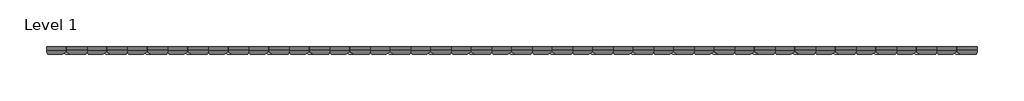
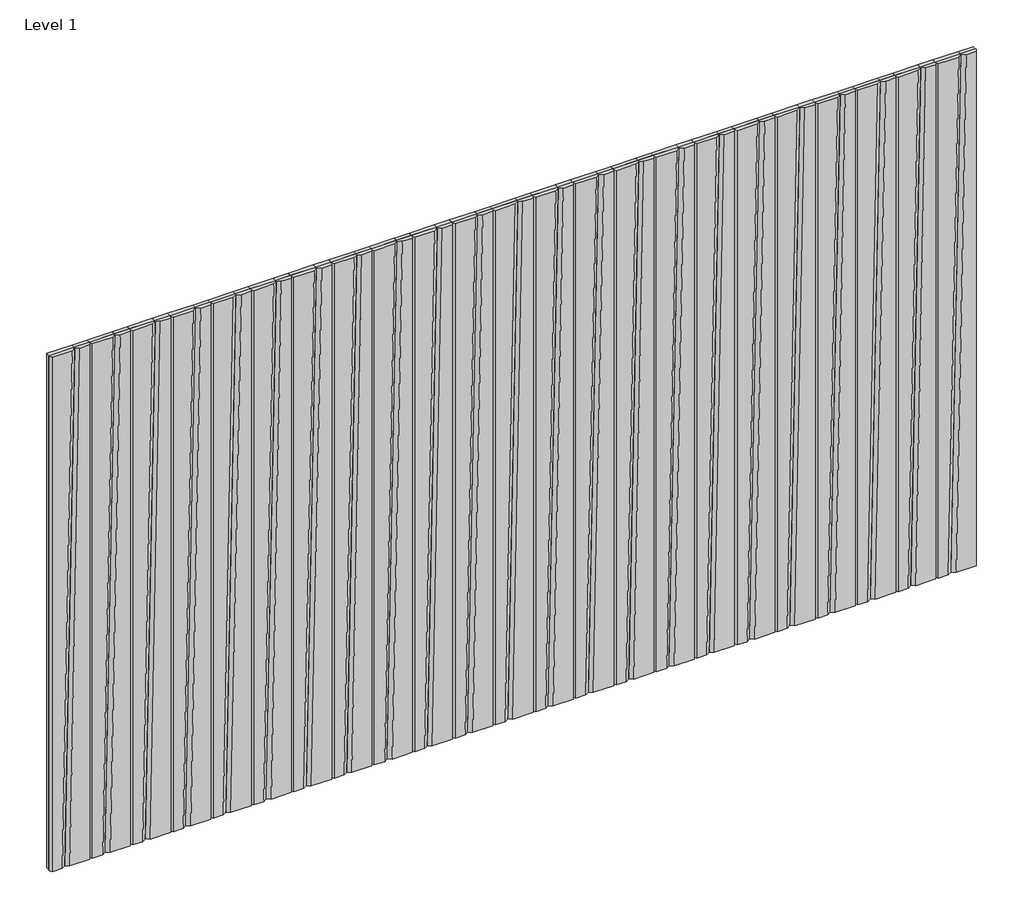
# One storey: 46 proxies.
"""IFC4 building model written with IfcOpenShell, lengths in millimetres."""

from ifc_helpers import new_model, si_unit, origin, place, context, project, spatial, transform, mapped, element, save
from components import specialty_equipment_cf8c985c, specialty_equipment_829ac422

model = new_model("IFC4")

# Units and contexts
model_context = context("Model", 3, world=origin())
ifc_project = project(units=[si_unit("LENGTHUNIT", "METRE", prefix="MILLI")], contexts=[model_context])

# Site, building, storey
site = spatial("IfcSite", under=ifc_project)
building = spatial("IfcBuilding", under=site)
storey = spatial("IfcBuildingStorey", under=building, Name="Level 1", Elevation=0.0)

# Proxies
placement = place(None, origin())
specialty_equipment_shape = specialty_equipment_cf8c985c(model_context)
element("IfcBuildingElementProxy", 1, Name="Spinneybeck_ARO Plank 3 : A - Top 5” x Bottom 3”", ObjectType="Spinneybeck_ARO Plank 3 : A - Top 5” x Bottom 3”", at=placement, inside=storey, context=model_context, shape_type="MappedRepresentation", body=[
    mapped(specialty_equipment_shape, transform((-18891.0631386, 525.5178844, -8.8724664), x_axis=(1.0, 0.0, 0.0), y_axis=(0.0, 0.0, 1.0), z_axis=(0.0, -1.0, 0.0))),
])
element("IfcBuildingElementProxy", 2, Name="Spinneybeck_ARO Plank 3 : A - Top 5” x Bottom 3”", ObjectType="Spinneybeck_ARO Plank 3 : A - Top 5” x Bottom 3”", at=placement, inside=storey, context=model_context, shape_type="MappedRepresentation", body=[
    mapped(specialty_equipment_shape, transform((-18687.8457235, 525.5178844, -8.8724664), x_axis=(1.0, 0.0, 0.0), y_axis=(0.0, 0.0, 1.0), z_axis=(0.0, -1.0, 0.0))),
])
element("IfcBuildingElementProxy", 3, Name="Spinneybeck_ARO Plank 3 : A - Top 5” x Bottom 3”", ObjectType="Spinneybeck_ARO Plank 3 : A - Top 5” x Bottom 3”", at=placement, inside=storey, context=model_context, shape_type="MappedRepresentation", body=[
    mapped(specialty_equipment_shape, transform((-18484.6283083, 525.5178844, -8.8724664), x_axis=(1.0, 0.0, 0.0), y_axis=(0.0, 0.0, 1.0), z_axis=(0.0, -1.0, 0.0))),
])
element("IfcBuildingElementProxy", 4, Name="Spinneybeck_ARO Plank 3 : A - Top 5” x Bottom 3”", ObjectType="Spinneybeck_ARO Plank 3 : A - Top 5” x Bottom 3”", at=placement, inside=storey, context=model_context, shape_type="MappedRepresentation", body=[
    mapped(specialty_equipment_shape, transform((-18281.4108932, 525.5178844, -8.8724664), x_axis=(1.0, 0.0, 0.0), y_axis=(0.0, 0.0, 1.0), z_axis=(0.0, -1.0, 0.0))),
])
element("IfcBuildingElementProxy", 5, Name="Spinneybeck_ARO Plank 3 : A - Top 5” x Bottom 3”", ObjectType="Spinneybeck_ARO Plank 3 : A - Top 5” x Bottom 3”", at=placement, inside=storey, context=model_context, shape_type="MappedRepresentation", body=[
    mapped(specialty_equipment_shape, transform((-18078.193478, 525.5178844, -8.8724664), x_axis=(1.0, 0.0, 0.0), y_axis=(0.0, 0.0, 1.0), z_axis=(0.0, -1.0, 0.0))),
])
element("IfcBuildingElementProxy", 6, Name="Spinneybeck_ARO Plank 3 : A - Top 5” x Bottom 3”", ObjectType="Spinneybeck_ARO Plank 3 : A - Top 5” x Bottom 3”", at=placement, inside=storey, context=model_context, shape_type="MappedRepresentation", body=[
    mapped(specialty_equipment_shape, transform((-17874.9760629, 525.5178844, -8.8724664), x_axis=(1.0, 0.0, 0.0), y_axis=(0.0, 0.0, 1.0), z_axis=(0.0, -1.0, 0.0))),
])
element("IfcBuildingElementProxy", 7, Name="Spinneybeck_ARO Plank 3 : A - Top 5” x Bottom 3”", ObjectType="Spinneybeck_ARO Plank 3 : A - Top 5” x Bottom 3”", at=placement, inside=storey, context=model_context, shape_type="MappedRepresentation", body=[
    mapped(specialty_equipment_shape, transform((-17671.7586477, 525.5178844, -8.8724664), x_axis=(1.0, 0.0, 0.0), y_axis=(0.0, 0.0, 1.0), z_axis=(0.0, -1.0, 0.0))),
])
element("IfcBuildingElementProxy", 8, Name="Spinneybeck_ARO Plank 3 : A - Top 5” x Bottom 3”", ObjectType="Spinneybeck_ARO Plank 3 : A - Top 5” x Bottom 3”", at=placement, inside=storey, context=model_context, shape_type="MappedRepresentation", body=[
    mapped(specialty_equipment_shape, transform((-17468.5412326, 525.5178844, -8.8724664), x_axis=(1.0, 0.0, 0.0), y_axis=(0.0, 0.0, 1.0), z_axis=(0.0, -1.0, 0.0))),
])
element("IfcBuildingElementProxy", 9, Name="Spinneybeck_ARO Plank 3 : A - Top 5” x Bottom 3”", ObjectType="Spinneybeck_ARO Plank 3 : A - Top 5” x Bottom 3”", at=placement, inside=storey, context=model_context, shape_type="MappedRepresentation", body=[
    mapped(specialty_equipment_shape, transform((-17265.3238174, 525.5178844, -8.8724664), x_axis=(1.0, 0.0, 0.0), y_axis=(0.0, 0.0, 1.0), z_axis=(0.0, -1.0, 0.0))),
])
element("IfcBuildingElementProxy", 10, Name="Spinneybeck_ARO Plank 3 : A - Top 5” x Bottom 3”", ObjectType="Spinneybeck_ARO Plank 3 : A - Top 5” x Bottom 3”", at=placement, inside=storey, context=model_context, shape_type="MappedRepresentation", body=[
    mapped(specialty_equipment_shape, transform((-17062.1064023, 525.5178844, -8.8724664), x_axis=(1.0, 0.0, 0.0), y_axis=(0.0, 0.0, 1.0), z_axis=(0.0, -1.0, 0.0))),
])
element("IfcBuildingElementProxy", 11, Name="Spinneybeck_ARO Plank 3 : A - Top 5” x Bottom 3”", ObjectType="Spinneybeck_ARO Plank 3 : A - Top 5” x Bottom 3”", at=placement, inside=storey, context=model_context, shape_type="MappedRepresentation", body=[
    mapped(specialty_equipment_shape, transform((-16858.8889871, 525.5178844, -8.8724664), x_axis=(1.0, 0.0, 0.0), y_axis=(0.0, 0.0, 1.0), z_axis=(0.0, -1.0, 0.0))),
])
element("IfcBuildingElementProxy", 12, Name="Spinneybeck_ARO Plank 3 : A - Top 5” x Bottom 3”", ObjectType="Spinneybeck_ARO Plank 3 : A - Top 5” x Bottom 3”", at=placement, inside=storey, context=model_context, shape_type="MappedRepresentation", body=[
    mapped(specialty_equipment_shape, transform((-16655.671572, 525.5178844, -8.8724664), x_axis=(1.0, 0.0, 0.0), y_axis=(0.0, 0.0, 1.0), z_axis=(0.0, -1.0, 0.0))),
])
element("IfcBuildingElementProxy", 13, Name="Spinneybeck_ARO Plank 3 : A - Top 5” x Bottom 3”", ObjectType="Spinneybeck_ARO Plank 3 : A - Top 5” x Bottom 3”", at=placement, inside=storey, context=model_context, shape_type="MappedRepresentation", body=[
    mapped(specialty_equipment_shape, transform((-16452.4541568, 525.5178844, -8.8724664), x_axis=(1.0, 0.0, 0.0), y_axis=(0.0, 0.0, 1.0), z_axis=(0.0, -1.0, 0.0))),
])
element("IfcBuildingElementProxy", 14, Name="Spinneybeck_ARO Plank 3 : A - Top 5” x Bottom 3”", ObjectType="Spinneybeck_ARO Plank 3 : A - Top 5” x Bottom 3”", at=placement, inside=storey, context=model_context, shape_type="MappedRepresentation", body=[
    mapped(specialty_equipment_shape, transform((-16249.2367417, 525.5178844, -8.8724664), x_axis=(1.0, 0.0, 0.0), y_axis=(0.0, 0.0, 1.0), z_axis=(0.0, -1.0, 0.0))),
])
element("IfcBuildingElementProxy", 15, Name="Spinneybeck_ARO Plank 3 : A - Top 5” x Bottom 3”", ObjectType="Spinneybeck_ARO Plank 3 : A - Top 5” x Bottom 3”", at=placement, inside=storey, context=model_context, shape_type="MappedRepresentation", body=[
    mapped(specialty_equipment_shape, transform((-16046.0193265, 525.5178844, -8.8724664), x_axis=(1.0, 0.0, 0.0), y_axis=(0.0, 0.0, 1.0), z_axis=(0.0, -1.0, 0.0))),
])
element("IfcBuildingElementProxy", 16, Name="Spinneybeck_ARO Plank 3 : A - Top 5” x Bottom 3”", ObjectType="Spinneybeck_ARO Plank 3 : A - Top 5” x Bottom 3”", at=placement, inside=storey, context=model_context, shape_type="MappedRepresentation", body=[
    mapped(specialty_equipment_shape, transform((-15842.8019113, 525.5178844, -8.8724664), x_axis=(1.0, 0.0, 0.0), y_axis=(0.0, 0.0, 1.0), z_axis=(0.0, -1.0, 0.0))),
])
element("IfcBuildingElementProxy", 17, Name="Spinneybeck_ARO Plank 3 : A - Top 5” x Bottom 3”", ObjectType="Spinneybeck_ARO Plank 3 : A - Top 5” x Bottom 3”", at=placement, inside=storey, context=model_context, shape_type="MappedRepresentation", body=[
    mapped(specialty_equipment_shape, transform((-15639.5844962, 525.5178844, -8.8724664), x_axis=(1.0, 0.0, 0.0), y_axis=(0.0, 0.0, 1.0), z_axis=(0.0, -1.0, 0.0))),
])
element("IfcBuildingElementProxy", 18, Name="Spinneybeck_ARO Plank 3 : A - Top 5” x Bottom 3”", ObjectType="Spinneybeck_ARO Plank 3 : A - Top 5” x Bottom 3”", at=placement, inside=storey, context=model_context, shape_type="MappedRepresentation", body=[
    mapped(specialty_equipment_shape, transform((-15436.367081, 525.5178844, -8.8724664), x_axis=(1.0, 0.0, 0.0), y_axis=(0.0, 0.0, 1.0), z_axis=(0.0, -1.0, 0.0))),
])
element("IfcBuildingElementProxy", 19, Name="Spinneybeck_ARO Plank 3 : A - Top 5” x Bottom 3”", ObjectType="Spinneybeck_ARO Plank 3 : A - Top 5” x Bottom 3”", at=placement, inside=storey, context=model_context, shape_type="MappedRepresentation", body=[
    mapped(specialty_equipment_shape, transform((-15233.1496659, 525.5178844, -8.8724664), x_axis=(1.0, 0.0, 0.0), y_axis=(0.0, 0.0, 1.0), z_axis=(0.0, -1.0, 0.0))),
])
element("IfcBuildingElementProxy", 20, Name="Spinneybeck_ARO Plank 3 : A - Top 5” x Bottom 3”", ObjectType="Spinneybeck_ARO Plank 3 : A - Top 5” x Bottom 3”", at=placement, inside=storey, context=model_context, shape_type="MappedRepresentation", body=[
    mapped(specialty_equipment_shape, transform((-15029.9322507, 525.5178844, -8.8724664), x_axis=(1.0, 0.0, 0.0), y_axis=(0.0, 0.0, 1.0), z_axis=(0.0, -1.0, 0.0))),
])
element("IfcBuildingElementProxy", 21, Name="Spinneybeck_ARO Plank 3 : A - Top 5” x Bottom 3”", ObjectType="Spinneybeck_ARO Plank 3 : A - Top 5” x Bottom 3”", at=placement, inside=storey, context=model_context, shape_type="MappedRepresentation", body=[
    mapped(specialty_equipment_shape, transform((-14826.7148356, 525.5178844, -8.8724664), x_axis=(1.0, 0.0, 0.0), y_axis=(0.0, 0.0, 1.0), z_axis=(0.0, -1.0, 0.0))),
])
element("IfcBuildingElementProxy", 22, Name="Spinneybeck_ARO Plank 3 : A - Top 5” x Bottom 3”", ObjectType="Spinneybeck_ARO Plank 3 : A - Top 5” x Bottom 3”", at=placement, inside=storey, context=model_context, shape_type="MappedRepresentation", body=[
    mapped(specialty_equipment_shape, transform((-14623.4974204, 525.5178844, -8.8724664), x_axis=(1.0, 0.0, 0.0), y_axis=(0.0, 0.0, 1.0), z_axis=(0.0, -1.0, 0.0))),
])
element("IfcBuildingElementProxy", 23, Name="Spinneybeck_ARO Plank 3 : A - Top 5” x Bottom 3”", ObjectType="Spinneybeck_ARO Plank 3 : A - Top 5” x Bottom 3”", at=placement, inside=storey, context=model_context, shape_type="MappedRepresentation", body=[
    mapped(specialty_equipment_shape, transform((-14420.2800053, 525.5178844, -8.8724664), x_axis=(1.0, 0.0, 0.0), y_axis=(0.0, 0.0, 1.0), z_axis=(0.0, -1.0, 0.0))),
])
specialty_equipment_2_shape = specialty_equipment_829ac422(model_context)
element("IfcBuildingElementProxy", 24, Name="Spinneybeck_ARO Plank 3 : A' - Top 3” x Bottom 5”", ObjectType="Spinneybeck_ARO Plank 3 : A' - Top 3” x Bottom 5”", at=placement, inside=storey, context=model_context, shape_type="MappedRepresentation", body=[
    mapped(specialty_equipment_2_shape, transform((-18814.8457235, 525.5178844, -8.8724664), x_axis=(1.0, 0.0, 0.0), y_axis=(0.0, 0.0, 1.0), z_axis=(0.0, -1.0, 0.0))),
])
element("IfcBuildingElementProxy", 25, Name="Spinneybeck_ARO Plank 3 : A' - Top 3” x Bottom 5”", ObjectType="Spinneybeck_ARO Plank 3 : A' - Top 3” x Bottom 5”", at=placement, inside=storey, context=model_context, shape_type="MappedRepresentation", body=[
    mapped(specialty_equipment_2_shape, transform((-18611.6283083, 525.5178844, -8.8724664), x_axis=(1.0, 0.0, 0.0), y_axis=(0.0, 0.0, 1.0), z_axis=(0.0, -1.0, 0.0))),
])
element("IfcBuildingElementProxy", 26, Name="Spinneybeck_ARO Plank 3 : A' - Top 3” x Bottom 5”", ObjectType="Spinneybeck_ARO Plank 3 : A' - Top 3” x Bottom 5”", at=placement, inside=storey, context=model_context, shape_type="MappedRepresentation", body=[
    mapped(specialty_equipment_2_shape, transform((-18408.4108932, 525.5178844, -8.8724664), x_axis=(1.0, 0.0, 0.0), y_axis=(0.0, 0.0, 1.0), z_axis=(0.0, -1.0, 0.0))),
])
element("IfcBuildingElementProxy", 27, Name="Spinneybeck_ARO Plank 3 : A' - Top 3” x Bottom 5”", ObjectType="Spinneybeck_ARO Plank 3 : A' - Top 3” x Bottom 5”", at=placement, inside=storey, context=model_context, shape_type="MappedRepresentation", body=[
    mapped(specialty_equipment_2_shape, transform((-18205.193478, 525.5178844, -8.8724664), x_axis=(1.0, 0.0, 0.0), y_axis=(0.0, 0.0, 1.0), z_axis=(0.0, -1.0, 0.0))),
])
element("IfcBuildingElementProxy", 28, Name="Spinneybeck_ARO Plank 3 : A' - Top 3” x Bottom 5”", ObjectType="Spinneybeck_ARO Plank 3 : A' - Top 3” x Bottom 5”", at=placement, inside=storey, context=model_context, shape_type="MappedRepresentation", body=[
    mapped(specialty_equipment_2_shape, transform((-18001.9760629, 525.5178844, -8.8724664), x_axis=(1.0, 0.0, 0.0), y_axis=(0.0, 0.0, 1.0), z_axis=(0.0, -1.0, 0.0))),
])
element("IfcBuildingElementProxy", 29, Name="Spinneybeck_ARO Plank 3 : A' - Top 3” x Bottom 5”", ObjectType="Spinneybeck_ARO Plank 3 : A' - Top 3” x Bottom 5”", at=placement, inside=storey, context=model_context, shape_type="MappedRepresentation", body=[
    mapped(specialty_equipment_2_shape, transform((-17798.7586477, 525.5178844, -8.8724664), x_axis=(1.0, 0.0, 0.0), y_axis=(0.0, 0.0, 1.0), z_axis=(0.0, -1.0, 0.0))),
])
element("IfcBuildingElementProxy", 30, Name="Spinneybeck_ARO Plank 3 : A' - Top 3” x Bottom 5”", ObjectType="Spinneybeck_ARO Plank 3 : A' - Top 3” x Bottom 5”", at=placement, inside=storey, context=model_context, shape_type="MappedRepresentation", body=[
    mapped(specialty_equipment_2_shape, transform((-17595.5412326, 525.5178844, -8.8724664), x_axis=(1.0, 0.0, 0.0), y_axis=(0.0, 0.0, 1.0), z_axis=(0.0, -1.0, 0.0))),
])
element("IfcBuildingElementProxy", 31, Name="Spinneybeck_ARO Plank 3 : A' - Top 3” x Bottom 5”", ObjectType="Spinneybeck_ARO Plank 3 : A' - Top 3” x Bottom 5”", at=placement, inside=storey, context=model_context, shape_type="MappedRepresentation", body=[
    mapped(specialty_equipment_2_shape, transform((-17392.3238174, 525.5178844, -8.8724664), x_axis=(1.0, 0.0, 0.0), y_axis=(0.0, 0.0, 1.0), z_axis=(0.0, -1.0, 0.0))),
])
element("IfcBuildingElementProxy", 32, Name="Spinneybeck_ARO Plank 3 : A' - Top 3” x Bottom 5”", ObjectType="Spinneybeck_ARO Plank 3 : A' - Top 3” x Bottom 5”", at=placement, inside=storey, context=model_context, shape_type="MappedRepresentation", body=[
    mapped(specialty_equipment_2_shape, transform((-17189.1064023, 525.5178844, -8.8724664), x_axis=(1.0, 0.0, 0.0), y_axis=(0.0, 0.0, 1.0), z_axis=(0.0, -1.0, 0.0))),
])
element("IfcBuildingElementProxy", 33, Name="Spinneybeck_ARO Plank 3 : A' - Top 3” x Bottom 5”", ObjectType="Spinneybeck_ARO Plank 3 : A' - Top 3” x Bottom 5”", at=placement, inside=storey, context=model_context, shape_type="MappedRepresentation", body=[
    mapped(specialty_equipment_2_shape, transform((-16985.8889871, 525.5178844, -8.8724664), x_axis=(1.0, 0.0, 0.0), y_axis=(0.0, 0.0, 1.0), z_axis=(0.0, -1.0, 0.0))),
])
element("IfcBuildingElementProxy", 34, Name="Spinneybeck_ARO Plank 3 : A' - Top 3” x Bottom 5”", ObjectType="Spinneybeck_ARO Plank 3 : A' - Top 3” x Bottom 5”", at=placement, inside=storey, context=model_context, shape_type="MappedRepresentation", body=[
    mapped(specialty_equipment_2_shape, transform((-16782.671572, 525.5178844, -8.8724664), x_axis=(1.0, 0.0, 0.0), y_axis=(0.0, 0.0, 1.0), z_axis=(0.0, -1.0, 0.0))),
])
element("IfcBuildingElementProxy", 35, Name="Spinneybeck_ARO Plank 3 : A' - Top 3” x Bottom 5”", ObjectType="Spinneybeck_ARO Plank 3 : A' - Top 3” x Bottom 5”", at=placement, inside=storey, context=model_context, shape_type="MappedRepresentation", body=[
    mapped(specialty_equipment_2_shape, transform((-16579.4541568, 525.5178844, -8.8724664), x_axis=(1.0, 0.0, 0.0), y_axis=(0.0, 0.0, 1.0), z_axis=(0.0, -1.0, 0.0))),
])
element("IfcBuildingElementProxy", 36, Name="Spinneybeck_ARO Plank 3 : A' - Top 3” x Bottom 5”", ObjectType="Spinneybeck_ARO Plank 3 : A' - Top 3” x Bottom 5”", at=placement, inside=storey, context=model_context, shape_type="MappedRepresentation", body=[
    mapped(specialty_equipment_2_shape, transform((-16376.2367417, 525.5178844, -8.8724664), x_axis=(1.0, 0.0, 0.0), y_axis=(0.0, 0.0, 1.0), z_axis=(0.0, -1.0, 0.0))),
])
element("IfcBuildingElementProxy", 37, Name="Spinneybeck_ARO Plank 3 : A' - Top 3” x Bottom 5”", ObjectType="Spinneybeck_ARO Plank 3 : A' - Top 3” x Bottom 5”", at=placement, inside=storey, context=model_context, shape_type="MappedRepresentation", body=[
    mapped(specialty_equipment_2_shape, transform((-16173.0193265, 525.5178844, -8.8724664), x_axis=(1.0, 0.0, 0.0), y_axis=(0.0, 0.0, 1.0), z_axis=(0.0, -1.0, 0.0))),
])
element("IfcBuildingElementProxy", 38, Name="Spinneybeck_ARO Plank 3 : A' - Top 3” x Bottom 5”", ObjectType="Spinneybeck_ARO Plank 3 : A' - Top 3” x Bottom 5”", at=placement, inside=storey, context=model_context, shape_type="MappedRepresentation", body=[
    mapped(specialty_equipment_2_shape, transform((-15969.8019113, 525.5178844, -8.8724664), x_axis=(1.0, 0.0, 0.0), y_axis=(0.0, 0.0, 1.0), z_axis=(0.0, -1.0, 0.0))),
])
element("IfcBuildingElementProxy", 39, Name="Spinneybeck_ARO Plank 3 : A' - Top 3” x Bottom 5”", ObjectType="Spinneybeck_ARO Plank 3 : A' - Top 3” x Bottom 5”", at=placement, inside=storey, context=model_context, shape_type="MappedRepresentation", body=[
    mapped(specialty_equipment_2_shape, transform((-15766.5844962, 525.5178844, -8.8724664), x_axis=(1.0, 0.0, 0.0), y_axis=(0.0, 0.0, 1.0), z_axis=(0.0, -1.0, 0.0))),
])
element("IfcBuildingElementProxy", 40, Name="Spinneybeck_ARO Plank 3 : A' - Top 3” x Bottom 5”", ObjectType="Spinneybeck_ARO Plank 3 : A' - Top 3” x Bottom 5”", at=placement, inside=storey, context=model_context, shape_type="MappedRepresentation", body=[
    mapped(specialty_equipment_2_shape, transform((-15563.367081, 525.5178844, -8.8724664), x_axis=(1.0, 0.0, 0.0), y_axis=(0.0, 0.0, 1.0), z_axis=(0.0, -1.0, 0.0))),
])
element("IfcBuildingElementProxy", 41, Name="Spinneybeck_ARO Plank 3 : A' - Top 3” x Bottom 5”", ObjectType="Spinneybeck_ARO Plank 3 : A' - Top 3” x Bottom 5”", at=placement, inside=storey, context=model_context, shape_type="MappedRepresentation", body=[
    mapped(specialty_equipment_2_shape, transform((-15360.1496659, 525.5178844, -8.8724664), x_axis=(1.0, 0.0, 0.0), y_axis=(0.0, 0.0, 1.0), z_axis=(0.0, -1.0, 0.0))),
])
element("IfcBuildingElementProxy", 42, Name="Spinneybeck_ARO Plank 3 : A' - Top 3” x Bottom 5”", ObjectType="Spinneybeck_ARO Plank 3 : A' - Top 3” x Bottom 5”", at=placement, inside=storey, context=model_context, shape_type="MappedRepresentation", body=[
    mapped(specialty_equipment_2_shape, transform((-15156.9322507, 525.5178844, -8.8724664), x_axis=(1.0, 0.0, 0.0), y_axis=(0.0, 0.0, 1.0), z_axis=(0.0, -1.0, 0.0))),
])
element("IfcBuildingElementProxy", 43, Name="Spinneybeck_ARO Plank 3 : A' - Top 3” x Bottom 5”", ObjectType="Spinneybeck_ARO Plank 3 : A' - Top 3” x Bottom 5”", at=placement, inside=storey, context=model_context, shape_type="MappedRepresentation", body=[
    mapped(specialty_equipment_2_shape, transform((-14953.7148356, 525.5178844, -8.8724664), x_axis=(1.0, 0.0, 0.0), y_axis=(0.0, 0.0, 1.0), z_axis=(0.0, -1.0, 0.0))),
])
element("IfcBuildingElementProxy", 44, Name="Spinneybeck_ARO Plank 3 : A' - Top 3” x Bottom 5”", ObjectType="Spinneybeck_ARO Plank 3 : A' - Top 3” x Bottom 5”", at=placement, inside=storey, context=model_context, shape_type="MappedRepresentation", body=[
    mapped(specialty_equipment_2_shape, transform((-14750.4974204, 525.5178844, -8.8724664), x_axis=(1.0, 0.0, 0.0), y_axis=(0.0, 0.0, 1.0), z_axis=(0.0, -1.0, 0.0))),
])
element("IfcBuildingElementProxy", 45, Name="Spinneybeck_ARO Plank 3 : A' - Top 3” x Bottom 5”", ObjectType="Spinneybeck_ARO Plank 3 : A' - Top 3” x Bottom 5”", at=placement, inside=storey, context=model_context, shape_type="MappedRepresentation", body=[
    mapped(specialty_equipment_2_shape, transform((-14547.2800053, 525.5178844, -8.8724664), x_axis=(1.0, 0.0, 0.0), y_axis=(0.0, 0.0, 1.0), z_axis=(0.0, -1.0, 0.0))),
])
element("IfcBuildingElementProxy", 46, Name="Spinneybeck_ARO Plank 3 : A' - Top 3” x Bottom 5”", ObjectType="Spinneybeck_ARO Plank 3 : A' - Top 3” x Bottom 5”", at=placement, inside=storey, context=model_context, shape_type="MappedRepresentation", body=[
    mapped(specialty_equipment_2_shape, transform((-14344.0625901, 525.5178844, -8.8724664), x_axis=(1.0, 0.0, 0.0), y_axis=(0.0, 0.0, 1.0), z_axis=(0.0, -1.0, 0.0))),
])

save(model, "model.ifc")
